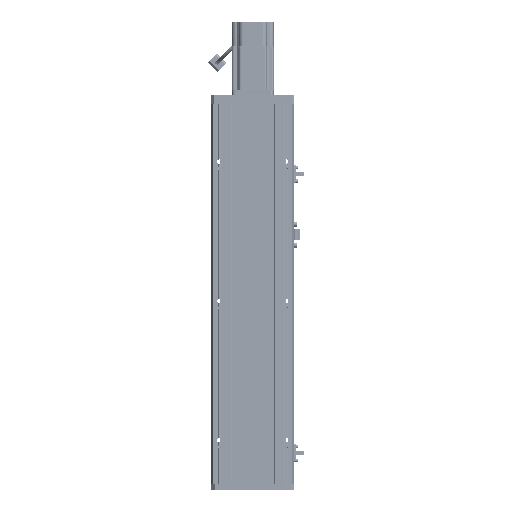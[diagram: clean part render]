
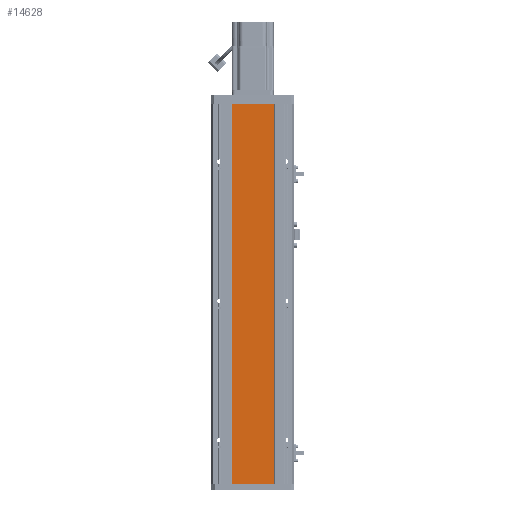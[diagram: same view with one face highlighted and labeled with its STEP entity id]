
A CAD part, front view. The second image highlights one B-rep face of the part: STEP entity #14628.
In plain terms, the highlighted planar face has unit normal (0, -1, 0).
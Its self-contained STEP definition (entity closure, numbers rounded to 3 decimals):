
#1670 = PLANE ( 'NONE',  #66887 ) ;
#8688 = VECTOR ( 'NONE', #49096, 1000. ) ;
#9837 = DIRECTION ( 'NONE',  ( -1., 0., 0. ) ) ;
#11674 = LINE ( 'NONE', #24726, #54815 ) ;
#14628 = ADVANCED_FACE ( 'NONE', ( #80509 ), #1670, .F. ) ;
#16079 = EDGE_CURVE ( 'NONE', #58776, #28969, #11674, .T. ) ;
#20987 = ORIENTED_EDGE ( 'NONE', *, *, #48819, .F. ) ;
#23296 = VERTEX_POINT ( 'NONE', #80743 ) ;
#24726 = CARTESIAN_POINT ( 'NONE',  ( 30., 0., 0. ) ) ;
#25250 = ORIENTED_EDGE ( 'NONE', *, *, #104343, .T. ) ;
#28969 = VERTEX_POINT ( 'NONE', #56249 ) ;
#33014 = VERTEX_POINT ( 'NONE', #74178 ) ;
#34114 = DIRECTION ( 'NONE',  ( -1., 0., 0. ) ) ;
#34193 = ORIENTED_EDGE ( 'NONE', *, *, #16079, .T. ) ;
#48819 = EDGE_CURVE ( 'NONE', #23296, #33014, #75394, .T. ) ;
#49096 = DIRECTION ( 'NONE',  ( 0., 0., 1. ) ) ;
#49165 = DIRECTION ( 'NONE',  ( -1., 0., 0. ) ) ;
#51824 = LINE ( 'NONE', #97715, #8688 ) ;
#54815 = VECTOR ( 'NONE', #49165, 1000. ) ;
#55573 = DIRECTION ( 'NONE',  ( 0., 0., 1. ) ) ;
#56249 = CARTESIAN_POINT ( 'NONE',  ( -30., 0., 0. ) ) ;
#58439 = DIRECTION ( 'NONE',  ( 0., 1., 0. ) ) ;
#58776 = VERTEX_POINT ( 'NONE', #59759 ) ;
#59759 = CARTESIAN_POINT ( 'NONE',  ( 30., 0., 0. ) ) ;
#62691 = EDGE_CURVE ( 'NONE', #33014, #28969, #101796, .T. ) ;
#65134 = ORIENTED_EDGE ( 'NONE', *, *, #62691, .F. ) ;
#65551 = CARTESIAN_POINT ( 'NONE',  ( 30., 0., -546.5 ) ) ;
#66887 = AXIS2_PLACEMENT_3D ( 'NONE', #65551, #58439, #9837 ) ;
#67729 = VECTOR ( 'NONE', #34114, 1000. ) ;
#74178 = CARTESIAN_POINT ( 'NONE',  ( -30., 0., -546.5 ) ) ;
#75394 = LINE ( 'NONE', #90815, #67729 ) ;
#77676 = VECTOR ( 'NONE', #55573, 1000. ) ;
#80509 = FACE_OUTER_BOUND ( 'NONE', #102747, .T. ) ;
#80743 = CARTESIAN_POINT ( 'NONE',  ( 30., 0., -546.5 ) ) ;
#90815 = CARTESIAN_POINT ( 'NONE',  ( 30., 0., -546.5 ) ) ;
#97715 = CARTESIAN_POINT ( 'NONE',  ( 30., 0., -546.5 ) ) ;
#101796 = LINE ( 'NONE', #104157, #77676 ) ;
#102747 = EDGE_LOOP ( 'NONE', ( #34193, #65134, #20987, #25250 ) ) ;
#104157 = CARTESIAN_POINT ( 'NONE',  ( -30., 0., -546.5 ) ) ;
#104343 = EDGE_CURVE ( 'NONE', #23296, #58776, #51824, .T. ) ;
